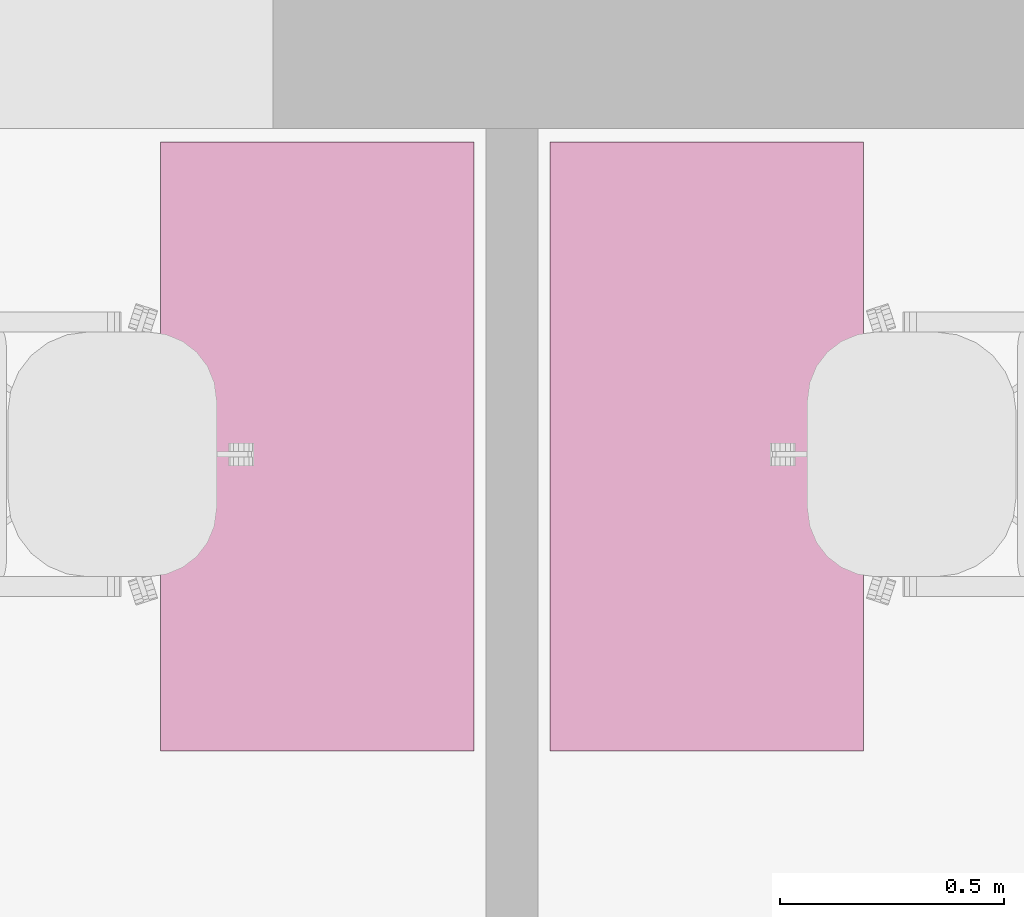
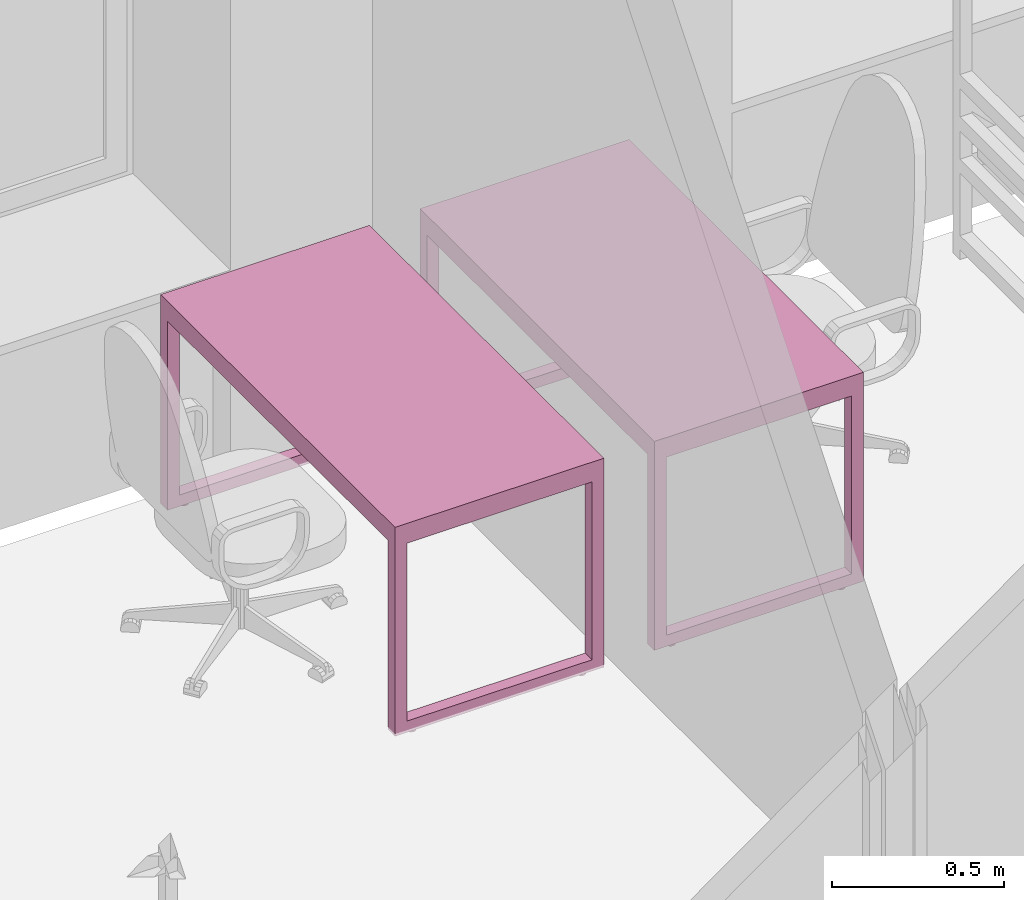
# One storey, part 38 of 48: 2 furnishings.
"""IFC2X3 building model written with IfcOpenShell, lengths in millimetres."""

from ifc_helpers import new_model, entity, si_unit, converted_unit, derived_unit, direction, frame, origin, place, context, subcontext, project, spatial, faceted_brep, source, transform, mapped, material, material_list, type_object, type_shapes, element, save


model = new_model("IFC2X3")

# Units and contexts
model_context = context("Model", 3, precision=0.01, world=origin(), true_north=direction((6.12303176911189e-17, 1.0)))
body_context = subcontext(model_context, "Body", "Model", "MODEL_VIEW")
ifc_project = project(units=[si_unit("LENGTHUNIT", "METRE", prefix="MILLI"), si_unit("AREAUNIT", "SQUARE_METRE"), si_unit("VOLUMEUNIT", "CUBIC_METRE"), converted_unit("PLANEANGLEUNIT", "DEGREE", entity("IfcRatioMeasure", 0.0174532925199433), si_unit("PLANEANGLEUNIT", "RADIAN"), dimensions=[0, 0, 0, 0, 0, 0, 0]), si_unit("MASSUNIT", "GRAM", prefix="KILO"), derived_unit("MASSDENSITYUNIT", [(si_unit("MASSUNIT", "GRAM", prefix="KILO"), 1), (si_unit("LENGTHUNIT", "METRE"), -3)]), si_unit("TIMEUNIT", "SECOND"), si_unit("FREQUENCYUNIT", "HERTZ"), si_unit("THERMODYNAMICTEMPERATUREUNIT", "DEGREE_CELSIUS"), derived_unit("THERMALTRANSMITTANCEUNIT", [(si_unit("MASSUNIT", "GRAM", prefix="KILO"), 1), (si_unit("THERMODYNAMICTEMPERATUREUNIT", "KELVIN"), -1), (si_unit("TIMEUNIT", "SECOND"), -3)]), derived_unit("VOLUMETRICFLOWRATEUNIT", [(si_unit("LENGTHUNIT", "METRE"), 3), (si_unit("TIMEUNIT", "SECOND"), -1)]), si_unit("ELECTRICCURRENTUNIT", "AMPERE"), si_unit("ELECTRICVOLTAGEUNIT", "VOLT"), si_unit("POWERUNIT", "WATT"), si_unit("FORCEUNIT", "NEWTON", prefix="KILO"), si_unit("ILLUMINANCEUNIT", "LUX"), si_unit("LUMINOUSFLUXUNIT", "LUMEN"), si_unit("LUMINOUSINTENSITYUNIT", "CANDELA"), derived_unit("USERDEFINED", [(si_unit("MASSUNIT", "GRAM", prefix="KILO"), -1), (si_unit("LENGTHUNIT", "METRE"), -2), (si_unit("TIMEUNIT", "SECOND"), 3), (si_unit("LUMINOUSFLUXUNIT", "LUMEN"), 1)]), derived_unit("LINEARVELOCITYUNIT", [(si_unit("LENGTHUNIT", "METRE"), 1), (si_unit("TIMEUNIT", "SECOND"), -1)]), si_unit("PRESSUREUNIT", "PASCAL"), derived_unit("USERDEFINED", [(si_unit("LENGTHUNIT", "METRE"), -2), (si_unit("MASSUNIT", "GRAM", prefix="KILO"), 1), (si_unit("TIMEUNIT", "SECOND"), -2)]), derived_unit("LINEARFORCEUNIT", [(si_unit("MASSUNIT", "GRAM", prefix="KILO"), 1), (si_unit("LENGTHUNIT", "METRE"), 1), (si_unit("TIMEUNIT", "SECOND"), -2), (si_unit("LENGTHUNIT", "METRE"), -1)]), derived_unit("PLANARFORCEUNIT", [(si_unit("MASSUNIT", "GRAM", prefix="KILO"), 1), (si_unit("LENGTHUNIT", "METRE"), 1), (si_unit("TIMEUNIT", "SECOND"), -2), (si_unit("LENGTHUNIT", "METRE"), -2)])], contexts=[model_context])

# Site, building, storey, space
site_placement = place(None, origin())
site = spatial("IfcSite", under=ifc_project, at=site_placement, Name="Default", CompositionType="ELEMENT")
building_placement = place(site_placement, origin())
building = spatial("IfcBuilding", under=site, at=building_placement, Name="SMA ARH", CompositionType="ELEMENT")
storey_placement = place(building_placement, frame((0.0, 0.0, 6600.0)))
storey = spatial("IfcBuildingStorey", under=building, at=storey_placement, Name="3 Korrus", CompositionType="ELEMENT", Elevation=6599.99999999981)
space_1_placement = place(storey_placement, origin())
space_1 = spatial("IfcSpace", under=storey, at=space_1_placement, Name="3-24", CompositionType="ELEMENT", InteriorOrExteriorSpace="INTERNAL")

# Furnishing
ifc_material = material(Name="<Unnamed>")
ifc_material_list_1 = material_list([ifc_material, ifc_material])
furniture_type_1 = type_object("IfcFurnitureType", Name="kirjutuslaud 1360x700mm:kirjutuslaud 1360x700mm", material=ifc_material_list_1)
shared_shape_1 = source(origin(), body_context, "Body", "Brep", [
    faceted_brep([(680.0, -350.0, 720.0), (680.0, 350.0, 720.0), (680.0, 350.0, 750.0), (680.0, -350.0, 750.0), (-680.0, -350.0, 720.0), (-680.0, -350.0, 750.0), (-680.0, 350.0, 750.0), (-680.0, 350.0, 720.0)], [[[0, 1, 2, 3]], [[4, 5, 6, 7]], [[1, 0, 4, 7]], [[2, 1, 7, 6]], [[3, 2, 6, 5]], [[0, 3, 5, 4]]]),
    faceted_brep([(-640.0, -310.0, 680.0), (-640.0, 310.0, 680.0), (-640.0, 310.0, 720.0), (-640.0, -310.0, 720.0), (-680.0, -350.0, 720.0), (-680.0, 350.0, 720.0), (-680.0, 350.0, 10.0), (-680.0, -350.0, 10.0), (-680.0, 310.0, 680.0), (-680.0, -310.0, 680.0), (-680.0, -310.0, 50.0), (-680.0, 310.0, 50.0), (-640.0, -350.0, 10.0), (-640.0, -350.0, 680.0), (640.0, -350.0, 680.0), (640.0, -350.0, 10.0), (680.0, -350.0, 10.0), (680.0, -350.0, 720.0), (-640.0, 350.0, 10.0), (680.0, 350.0, 720.0), (680.0, 350.0, 10.0), (640.0, 350.0, 10.0), (640.0, 350.0, 680.0), (-640.0, 350.0, 680.0), (640.0, 310.0, 720.0), (640.0, -310.0, 720.0), (-640.0, 310.0, 50.0), (-640.0, -310.0, 50.0), (640.0, -310.0, 680.0), (640.0, 310.0, 680.0), (680.0, 310.0, 680.0), (680.0, 310.0, 50.0), (680.0, -310.0, 50.0), (680.0, -310.0, 680.0), (640.0, -310.0, 50.0), (640.0, 310.0, 50.0)], [[[0, 1, 2, 3]], [[4, 5, 6, 7], [8, 9, 10, 11]], [[4, 7, 12, 13, 14, 15, 16, 17]], [[18, 12, 7, 6]], [[6, 5, 19, 20, 21, 22, 23, 18]], [[19, 5, 4, 17], [2, 24, 25, 3]], [[26, 1, 8, 11]], [[27, 26, 11, 10]], [[0, 27, 10, 9]], [[1, 0, 9, 8]], [[14, 13, 0, 28]], [[24, 2, 1, 29]], [[3, 25, 28, 0]], [[17, 16, 20, 19], [30, 31, 32, 33]], [[21, 15, 14, 28, 34, 35, 29, 22]], [[20, 16, 15, 21]], [[31, 30, 29, 35]], [[32, 31, 35, 34]], [[33, 32, 34, 28]], [[30, 33, 28, 29]], [[29, 28, 25, 24]], [[29, 1, 23, 22]], [[12, 18, 23, 1, 26, 27, 0, 13]]]),
    faceted_brep([(-663.729456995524, -270.466136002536, 0.0), (-659.847171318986, -269.955023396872, 0.0), (-655.964885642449, -270.466136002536, 0.0), (-652.347171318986, -271.964642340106, 0.0), (-649.240569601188, -274.348421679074, 0.0), (-646.85679026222, -277.455023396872, 0.0), (-645.35828392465, -281.072737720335, 0.0), (-644.847171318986, -284.955023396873, 0.0), (-645.35828392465, -288.83730907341, 0.0), (-646.85679026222, -292.455023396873, 0.0), (-649.240569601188, -295.561625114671, 0.0), (-652.347171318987, -297.945404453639, 0.0), (-655.964885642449, -299.443910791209, 0.0), (-659.847171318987, -299.955023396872, 0.0), (-663.729456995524, -299.443910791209, 0.0), (-667.347171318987, -297.945404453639, 0.0), (-670.453773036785, -295.561625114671, 0.0), (-672.837552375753, -292.455023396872, 0.0), (-674.336058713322, -288.83730907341, 0.0), (-674.847171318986, -284.955023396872, 0.0), (-674.336058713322, -281.072737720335, 0.0), (-672.837552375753, -277.455023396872, 0.0), (-670.453773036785, -274.348421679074, 0.0), (-667.347171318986, -271.964642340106, 0.0), (-655.964885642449, -299.443910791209, 10.0), (-652.347171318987, -297.945404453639, 10.0), (-649.240569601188, -295.561625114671, 10.0), (-646.85679026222, -292.455023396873, 10.0), (-645.35828392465, -288.83730907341, 10.0), (-644.847171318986, -284.955023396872, 10.0), (-645.35828392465, -281.072737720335, 10.0), (-646.85679026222, -277.455023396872, 10.0), (-649.240569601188, -274.348421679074, 10.0), (-652.347171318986, -271.964642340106, 10.0), (-655.964885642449, -270.466136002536, 10.0), (-659.847171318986, -269.955023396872, 10.0), (-663.729456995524, -270.466136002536, 10.0), (-667.347171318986, -271.964642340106, 10.0), (-670.453773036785, -274.348421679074, 10.0), (-672.837552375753, -277.455023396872, 10.0), (-674.336058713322, -281.072737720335, 10.0), (-674.847171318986, -284.955023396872, 10.0), (-674.336058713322, -288.83730907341, 10.0), (-672.837552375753, -292.455023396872, 10.0), (-670.453773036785, -295.561625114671, 10.0), (-667.347171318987, -297.945404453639, 10.0), (-663.729456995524, -299.443910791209, 10.0), (-659.847171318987, -299.955023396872, 10.0)], [[[0, 1, 2, 3, 4, 5, 6, 7, 8, 9, 10, 11, 12, 13, 14, 15, 16, 17, 18, 19, 20, 21, 22, 23]], [[24, 25, 26, 27, 28, 29, 30, 31, 32, 33, 34, 35, 36, 37, 38, 39, 40, 41, 42, 43, 44, 45, 46, 47]], [[18, 42, 41, 19]], [[17, 43, 42, 18]], [[45, 44, 16, 15]], [[17, 16, 44, 43]], [[46, 45, 15, 14]], [[47, 46, 14, 13]], [[12, 24, 47, 13]], [[11, 25, 24, 12]], [[27, 26, 10, 9]], [[11, 10, 26, 25]], [[28, 27, 9, 8]], [[29, 28, 8, 7]], [[6, 30, 29, 7]], [[5, 31, 30, 6]], [[33, 32, 4, 3]], [[5, 4, 32, 31]], [[34, 33, 3, 2]], [[35, 34, 2, 1]], [[0, 36, 35, 1]], [[23, 37, 36, 0]], [[39, 38, 22, 21]], [[23, 22, 38, 37]], [[40, 39, 21, 20]], [[41, 40, 20, 19]]]),
    faceted_brep([(-655.964885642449, 270.466136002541, 10.0), (-652.347171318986, 271.964642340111, 10.0), (-649.240569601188, 274.348421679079, 10.0), (-646.85679026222, 277.455023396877, 10.0), (-645.35828392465, 281.07273772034, 10.0), (-644.847171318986, 284.955023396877, 10.0), (-645.35828392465, 288.837309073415, 10.0), (-646.85679026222, 292.455023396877, 10.0), (-649.240569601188, 295.561625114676, 10.0), (-652.347171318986, 297.945404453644, 10.0), (-655.964885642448, 299.443910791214, 10.0), (-659.847171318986, 299.955023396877, 10.0), (-663.729456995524, 299.443910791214, 10.0), (-667.347171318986, 297.945404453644, 10.0), (-670.453773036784, 295.561625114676, 10.0), (-672.837552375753, 292.455023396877, 10.0), (-674.336058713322, 288.837309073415, 10.0), (-674.847171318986, 284.955023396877, 10.0), (-674.336058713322, 281.07273772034, 10.0), (-672.837552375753, 277.455023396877, 10.0), (-670.453773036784, 274.348421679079, 10.0), (-667.347171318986, 271.964642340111, 10.0), (-663.729456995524, 270.466136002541, 10.0), (-659.847171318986, 269.955023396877, 10.0), (-655.964885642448, 299.443910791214, 0.0), (-652.347171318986, 297.945404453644, 0.0), (-649.240569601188, 295.561625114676, 0.0), (-646.85679026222, 292.455023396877, 0.0), (-645.35828392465, 288.837309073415, 0.0), (-644.847171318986, 284.955023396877, 0.0), (-645.35828392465, 281.07273772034, 0.0), (-646.85679026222, 277.455023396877, 0.0), (-649.240569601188, 274.348421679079, 0.0), (-652.347171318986, 271.964642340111, 0.0), (-655.964885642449, 270.466136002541, 0.0), (-659.847171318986, 269.955023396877, 0.0), (-663.729456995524, 270.466136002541, 0.0), (-667.347171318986, 271.964642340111, 0.0), (-670.453773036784, 274.348421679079, 0.0), (-672.837552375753, 277.455023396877, 0.0), (-674.336058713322, 281.07273772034, 0.0), (-674.847171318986, 284.955023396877, 0.0), (-674.336058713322, 288.837309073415, 0.0), (-672.837552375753, 292.455023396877, 0.0), (-670.453773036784, 295.561625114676, 0.0), (-667.347171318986, 297.945404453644, 0.0), (-663.729456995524, 299.443910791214, 0.0), (-659.847171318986, 299.955023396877, 0.0)], [[[0, 1, 2, 3, 4, 5, 6, 7, 8, 9, 10, 11, 12, 13, 14, 15, 16, 17, 18, 19, 20, 21, 22, 23]], [[24, 25, 26, 27, 28, 29, 30, 31, 32, 33, 34, 35, 36, 37, 38, 39, 40, 41, 42, 43, 44, 45, 46, 47]], [[40, 18, 17, 41]], [[39, 19, 18, 40]], [[21, 20, 38, 37]], [[39, 38, 20, 19]], [[22, 21, 37, 36]], [[23, 22, 36, 35]], [[34, 0, 23, 35]], [[33, 1, 0, 34]], [[3, 2, 32, 31]], [[33, 32, 2, 1]], [[4, 3, 31, 30]], [[5, 4, 30, 29]], [[28, 6, 5, 29]], [[27, 7, 6, 28]], [[9, 8, 26, 25]], [[27, 26, 8, 7]], [[10, 9, 25, 24]], [[11, 10, 24, 47]], [[46, 12, 11, 47]], [[45, 13, 12, 46]], [[15, 14, 44, 43]], [[45, 44, 14, 13]], [[16, 15, 43, 42]], [[17, 16, 42, 41]]]),
    faceted_brep([(656.270543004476, -270.466136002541, 0.0), (660.152828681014, -269.955023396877, 0.0), (664.035114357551, -270.466136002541, 0.0), (667.652828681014, -271.96464234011, 0.0), (670.759430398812, -274.348421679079, 0.0), (673.14320973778, -277.455023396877, 0.0), (674.64171607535, -281.072737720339, 0.0), (675.152828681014, -284.955023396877, 0.0), (674.64171607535, -288.837309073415, 0.0), (673.14320973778, -292.455023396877, 0.0), (670.759430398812, -295.561625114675, 0.0), (667.652828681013, -297.945404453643, 0.0), (664.035114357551, -299.443910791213, 0.0), (660.152828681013, -299.955023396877, 0.0), (656.270543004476, -299.443910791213, 0.0), (652.652828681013, -297.945404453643, 0.0), (649.546226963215, -295.561625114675, 0.0), (647.162447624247, -292.455023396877, 0.0), (645.663941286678, -288.837309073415, 0.0), (645.152828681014, -284.955023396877, 0.0), (645.663941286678, -281.072737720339, 0.0), (647.162447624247, -277.455023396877, 0.0), (649.546226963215, -274.348421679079, 0.0), (652.652828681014, -271.96464234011, 0.0), (664.035114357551, -299.443910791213, 10.0), (667.652828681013, -297.945404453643, 10.0), (670.759430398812, -295.561625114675, 10.0), (673.14320973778, -292.455023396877, 10.0), (674.64171607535, -288.837309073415, 10.0), (675.152828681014, -284.955023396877, 10.0), (674.64171607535, -281.072737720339, 10.0), (673.14320973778, -277.455023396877, 10.0), (670.759430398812, -274.348421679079, 10.0), (667.652828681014, -271.96464234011, 10.0), (664.035114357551, -270.466136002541, 10.0), (660.152828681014, -269.955023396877, 10.0), (656.270543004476, -270.466136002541, 10.0), (652.652828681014, -271.96464234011, 10.0), (649.546226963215, -274.348421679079, 10.0), (647.162447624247, -277.455023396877, 10.0), (645.663941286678, -281.072737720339, 10.0), (645.152828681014, -284.955023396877, 10.0), (645.663941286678, -288.837309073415, 10.0), (647.162447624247, -292.455023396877, 10.0), (649.546226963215, -295.561625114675, 10.0), (652.652828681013, -297.945404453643, 10.0), (656.270543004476, -299.443910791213, 10.0), (660.152828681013, -299.955023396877, 10.0)], [[[0, 1, 2, 3, 4, 5, 6, 7, 8, 9, 10, 11, 12, 13, 14, 15, 16, 17, 18, 19, 20, 21, 22, 23]], [[24, 25, 26, 27, 28, 29, 30, 31, 32, 33, 34, 35, 36, 37, 38, 39, 40, 41, 42, 43, 44, 45, 46, 47]], [[18, 42, 41, 19]], [[17, 43, 42, 18]], [[45, 44, 16, 15]], [[17, 16, 44, 43]], [[46, 45, 15, 14]], [[47, 46, 14, 13]], [[12, 24, 47, 13]], [[11, 25, 24, 12]], [[27, 26, 10, 9]], [[11, 10, 26, 25]], [[28, 27, 9, 8]], [[29, 28, 8, 7]], [[6, 30, 29, 7]], [[5, 31, 30, 6]], [[33, 32, 4, 3]], [[5, 4, 32, 31]], [[34, 33, 3, 2]], [[35, 34, 2, 1]], [[0, 36, 35, 1]], [[23, 37, 36, 0]], [[39, 38, 22, 21]], [[23, 22, 38, 37]], [[40, 39, 21, 20]], [[41, 40, 20, 19]]]),
    faceted_brep([(664.035114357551, 270.466136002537, 10.0), (667.652828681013, 271.964642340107, 10.0), (670.759430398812, 274.348421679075, 10.0), (673.14320973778, 277.455023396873, 10.0), (674.64171607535, 281.072737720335, 10.0), (675.152828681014, 284.955023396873, 10.0), (674.64171607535, 288.837309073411, 10.0), (673.14320973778, 292.455023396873, 10.0), (670.759430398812, 295.561625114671, 10.0), (667.652828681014, 297.94540445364, 10.0), (664.035114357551, 299.443910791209, 10.0), (660.152828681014, 299.955023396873, 10.0), (656.270543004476, 299.443910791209, 10.0), (652.652828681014, 297.94540445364, 10.0), (649.546226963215, 295.561625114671, 10.0), (647.162447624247, 292.455023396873, 10.0), (645.663941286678, 288.837309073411, 10.0), (645.152828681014, 284.955023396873, 10.0), (645.663941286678, 281.072737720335, 10.0), (647.162447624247, 277.455023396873, 10.0), (649.546226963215, 274.348421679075, 10.0), (652.652828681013, 271.964642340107, 10.0), (656.270543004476, 270.466136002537, 10.0), (660.152828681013, 269.955023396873, 10.0), (664.035114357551, 299.443910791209, 0.0), (667.652828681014, 297.94540445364, 0.0), (670.759430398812, 295.561625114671, 0.0), (673.14320973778, 292.455023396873, 0.0), (674.64171607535, 288.837309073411, 0.0), (675.152828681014, 284.955023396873, 0.0), (674.64171607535, 281.072737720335, 0.0), (673.14320973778, 277.455023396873, 0.0), (670.759430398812, 274.348421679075, 0.0), (667.652828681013, 271.964642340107, 0.0), (664.035114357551, 270.466136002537, 0.0), (660.152828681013, 269.955023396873, 0.0), (656.270543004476, 270.466136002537, 0.0), (652.652828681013, 271.964642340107, 0.0), (649.546226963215, 274.348421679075, 0.0), (647.162447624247, 277.455023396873, 0.0), (645.663941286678, 281.072737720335, 0.0), (645.152828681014, 284.955023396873, 0.0), (645.663941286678, 288.837309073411, 0.0), (647.162447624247, 292.455023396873, 0.0), (649.546226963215, 295.561625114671, 0.0), (652.652828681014, 297.94540445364, 0.0), (656.270543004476, 299.443910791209, 0.0), (660.152828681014, 299.955023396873, 0.0)], [[[0, 1, 2, 3, 4, 5, 6, 7, 8, 9, 10, 11, 12, 13, 14, 15, 16, 17, 18, 19, 20, 21, 22, 23]], [[24, 25, 26, 27, 28, 29, 30, 31, 32, 33, 34, 35, 36, 37, 38, 39, 40, 41, 42, 43, 44, 45, 46, 47]], [[40, 18, 17, 41]], [[39, 19, 18, 40]], [[21, 20, 38, 37]], [[39, 38, 20, 19]], [[22, 21, 37, 36]], [[23, 22, 36, 35]], [[34, 0, 23, 35]], [[33, 1, 0, 34]], [[3, 2, 32, 31]], [[33, 32, 2, 1]], [[4, 3, 31, 30]], [[5, 4, 30, 29]], [[28, 6, 5, 29]], [[27, 7, 6, 28]], [[9, 8, 26, 25]], [[27, 26, 8, 7]], [[10, 9, 25, 24]], [[11, 10, 24, 47]], [[46, 12, 11, 47]], [[45, 13, 12, 46]], [[15, 14, 44, 43]], [[45, 44, 14, 13]], [[16, 15, 43, 42]], [[17, 16, 42, 41]]]),
])
type_shapes(furniture_type_1, [shared_shape_1])
furnishing_1_placement = place(space_1_placement, frame((19678.0, 11790.0, 0.0), z_axis=(0.0, 0.0, 1.0), x_axis=(0.0, 1.0, 0.0)))
element("IfcFurnishingElement", 1, at=furnishing_1_placement, inside=space_1, type_object=furniture_type_1, Name="kirjutuslaud 1360x700mm:kirjutuslaud 1360x700mm", ObjectType="kirjutuslaud 1360x700mm:kirjutuslaud 1360x700mm", context=body_context, shape_type="MappedRepresentation", body=[
    mapped(shared_shape_1, transform((0.0, 0.0, 0.0), scale=1.0)),
])

# Space
space_2_placement = place(storey_placement, origin())
space_2 = spatial("IfcSpace", under=storey, at=space_2_placement, Name="3-23", CompositionType="ELEMENT", InteriorOrExteriorSpace="INTERNAL")

# Furnishing
ifc_material_list_2 = material_list([ifc_material, ifc_material])
furniture_type_2 = type_object("IfcFurnitureType", Name="kirjutuslaud 1360x700mm:kirjutuslaud 1360x700mm", material=ifc_material_list_2)
shared_shape_2 = source(origin(), body_context, "Body", "Brep", [
    faceted_brep([(680.0, 350.0, 720.0), (680.0, 350.0, 750.0), (680.0, -350.0, 750.0), (680.0, -350.0, 720.0), (-680.0, 350.0, 720.0), (-680.0, -350.0, 720.0), (-680.0, -350.0, 750.0), (-680.0, 350.0, 750.0)], [[[0, 1, 2, 3]], [[4, 5, 6, 7]], [[3, 5, 4, 0]], [[2, 6, 5, 3]], [[1, 7, 6, 2]], [[0, 4, 7, 1]]]),
    faceted_brep([(-640.0, 310.0, 680.0), (-640.0, 310.0, 720.0), (-640.0, -310.0, 720.0), (-640.0, -310.0, 680.0), (-680.0, 350.0, 720.0), (-680.0, 350.0, 10.0), (-680.0, -350.0, 10.0), (-680.0, -350.0, 720.0), (-680.0, -310.0, 680.0), (-680.0, -310.0, 50.0), (-680.0, 310.0, 50.0), (-680.0, 310.0, 680.0), (680.0, 350.0, 720.0), (680.0, 350.0, 10.0), (640.0, 350.0, 10.0), (640.0, 350.0, 680.0), (-640.0, 350.0, 680.0), (-640.0, 350.0, 10.0), (-640.0, -350.0, 10.0), (-640.0, -350.0, 680.0), (640.0, -350.0, 680.0), (640.0, -350.0, 10.0), (680.0, -350.0, 10.0), (680.0, -350.0, 720.0), (640.0, 310.0, 720.0), (640.0, -310.0, 720.0), (-640.0, -310.0, 50.0), (-640.0, 310.0, 50.0), (640.0, -310.0, 680.0), (640.0, 310.0, 680.0), (680.0, -310.0, 680.0), (680.0, 310.0, 680.0), (680.0, 310.0, 50.0), (680.0, -310.0, 50.0), (640.0, -310.0, 50.0), (640.0, 310.0, 50.0)], [[[0, 1, 2, 3]], [[4, 5, 6, 7], [8, 9, 10, 11]], [[4, 12, 13, 14, 15, 16, 17, 5]], [[18, 6, 5, 17]], [[6, 18, 19, 20, 21, 22, 23, 7]], [[2, 1, 24, 25], [23, 12, 4, 7]], [[26, 9, 8, 3]], [[27, 10, 9, 26]], [[0, 11, 10, 27]], [[3, 8, 11, 0]], [[28, 20, 19, 3]], [[25, 28, 3, 2]], [[1, 0, 29, 24]], [[12, 23, 22, 13], [30, 31, 32, 33]], [[21, 20, 28, 34, 35, 29, 15, 14]], [[22, 21, 14, 13]], [[33, 34, 28, 30]], [[32, 35, 34, 33]], [[31, 29, 35, 32]], [[30, 28, 29, 31]], [[28, 25, 24, 29]], [[15, 29, 0, 16]], [[17, 16, 0, 27, 26, 3, 19, 18]]], outer=[[True], [True, False], [True], [True], [True], [False, True], [True], [True], [True], [True], [True], [True], [True], [True, False], [True], [True], [True], [True], [True], [True], [True], [True], [True]]),
    faceted_brep([(-655.964885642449, 270.466136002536, 0.0), (-659.847171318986, 269.955023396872, 0.0), (-663.729456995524, 270.466136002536, 0.0), (-667.347171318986, 271.964642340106, 0.0), (-670.453773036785, 274.348421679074, 0.0), (-672.837552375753, 277.455023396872, 0.0), (-674.336058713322, 281.072737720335, 0.0), (-674.847171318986, 284.955023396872, 0.0), (-674.336058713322, 288.83730907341, 0.0), (-672.837552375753, 292.455023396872, 0.0), (-670.453773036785, 295.561625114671, 0.0), (-667.347171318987, 297.945404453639, 0.0), (-663.729456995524, 299.443910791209, 0.0), (-659.847171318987, 299.955023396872, 0.0), (-655.964885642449, 299.443910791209, 0.0), (-652.347171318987, 297.945404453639, 0.0), (-649.240569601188, 295.561625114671, 0.0), (-646.85679026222, 292.455023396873, 0.0), (-645.35828392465, 288.83730907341, 0.0), (-644.847171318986, 284.955023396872, 0.0), (-645.35828392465, 281.072737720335, 0.0), (-646.85679026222, 277.455023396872, 0.0), (-649.240569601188, 274.348421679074, 0.0), (-652.347171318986, 271.964642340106, 0.0), (-649.240569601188, 295.561625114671, 10.0), (-652.347171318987, 297.945404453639, 10.0), (-655.964885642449, 299.443910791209, 10.0), (-659.847171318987, 299.955023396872, 10.0), (-663.729456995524, 299.443910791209, 10.0), (-667.347171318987, 297.945404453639, 10.0), (-670.453773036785, 295.561625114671, 10.0), (-672.837552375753, 292.455023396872, 10.0), (-674.336058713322, 288.83730907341, 10.0), (-674.847171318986, 284.955023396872, 10.0), (-674.336058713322, 281.072737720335, 10.0), (-672.837552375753, 277.455023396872, 10.0), (-670.453773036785, 274.348421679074, 10.0), (-667.347171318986, 271.964642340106, 10.0), (-663.729456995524, 270.466136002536, 10.0), (-659.847171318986, 269.955023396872, 10.0), (-655.964885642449, 270.466136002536, 10.0), (-652.347171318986, 271.964642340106, 10.0), (-649.240569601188, 274.348421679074, 10.0), (-646.85679026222, 277.455023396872, 10.0), (-645.35828392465, 281.072737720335, 10.0), (-644.847171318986, 284.955023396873, 10.0), (-645.35828392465, 288.83730907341, 10.0), (-646.85679026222, 292.455023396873, 10.0)], [[[0, 1, 2, 3, 4, 5, 6, 7, 8, 9, 10, 11, 12, 13, 14, 15, 16, 17, 18, 19, 20, 21, 22, 23]], [[24, 25, 26, 27, 28, 29, 30, 31, 32, 33, 34, 35, 36, 37, 38, 39, 40, 41, 42, 43, 44, 45, 46, 47]], [[7, 33, 32, 8]], [[8, 32, 31, 9]], [[11, 10, 30, 29]], [[30, 10, 9, 31]], [[12, 11, 29, 28]], [[12, 28, 27, 13]], [[13, 27, 26, 14]], [[14, 26, 25, 15]], [[17, 16, 24, 47]], [[24, 16, 15, 25]], [[18, 17, 47, 46]], [[18, 46, 45, 19]], [[19, 45, 44, 20]], [[20, 44, 43, 21]], [[23, 22, 42, 41]], [[42, 22, 21, 43]], [[0, 23, 41, 40]], [[0, 40, 39, 1]], [[1, 39, 38, 2]], [[2, 38, 37, 3]], [[5, 4, 36, 35]], [[36, 4, 3, 37]], [[6, 5, 35, 34]], [[6, 34, 33, 7]]]),
    faceted_brep([(-649.240569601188, -274.348421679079, 10.0), (-652.347171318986, -271.964642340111, 10.0), (-655.964885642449, -270.466136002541, 10.0), (-659.847171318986, -269.955023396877, 10.0), (-663.729456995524, -270.466136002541, 10.0), (-667.347171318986, -271.964642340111, 10.0), (-670.453773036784, -274.348421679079, 10.0), (-672.837552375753, -277.455023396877, 10.0), (-674.336058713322, -281.07273772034, 10.0), (-674.847171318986, -284.955023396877, 10.0), (-674.336058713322, -288.837309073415, 10.0), (-672.837552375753, -292.455023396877, 10.0), (-670.453773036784, -295.561625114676, 10.0), (-667.347171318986, -297.945404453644, 10.0), (-663.729456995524, -299.443910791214, 10.0), (-659.847171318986, -299.955023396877, 10.0), (-655.964885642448, -299.443910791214, 10.0), (-652.347171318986, -297.945404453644, 10.0), (-649.240569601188, -295.561625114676, 10.0), (-646.85679026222, -292.455023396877, 10.0), (-645.35828392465, -288.837309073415, 10.0), (-644.847171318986, -284.955023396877, 10.0), (-645.35828392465, -281.07273772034, 10.0), (-646.85679026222, -277.455023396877, 10.0), (-659.847171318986, -299.955023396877, 0.0), (-663.729456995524, -299.443910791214, 0.0), (-667.347171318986, -297.945404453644, 0.0), (-670.453773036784, -295.561625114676, 0.0), (-672.837552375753, -292.455023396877, 0.0), (-674.336058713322, -288.837309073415, 0.0), (-674.847171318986, -284.955023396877, 0.0), (-674.336058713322, -281.07273772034, 0.0), (-672.837552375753, -277.455023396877, 0.0), (-670.453773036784, -274.348421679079, 0.0), (-667.347171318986, -271.964642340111, 0.0), (-663.729456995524, -270.466136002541, 0.0), (-659.847171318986, -269.955023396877, 0.0), (-655.964885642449, -270.466136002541, 0.0), (-652.347171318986, -271.964642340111, 0.0), (-649.240569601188, -274.348421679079, 0.0), (-646.85679026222, -277.455023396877, 0.0), (-645.35828392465, -281.07273772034, 0.0), (-644.847171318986, -284.955023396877, 0.0), (-645.35828392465, -288.837309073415, 0.0), (-646.85679026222, -292.455023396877, 0.0), (-649.240569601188, -295.561625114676, 0.0), (-652.347171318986, -297.945404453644, 0.0), (-655.964885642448, -299.443910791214, 0.0)], [[[0, 1, 2, 3, 4, 5, 6, 7, 8, 9, 10, 11, 12, 13, 14, 15, 16, 17, 18, 19, 20, 21, 22, 23]], [[24, 25, 26, 27, 28, 29, 30, 31, 32, 33, 34, 35, 36, 37, 38, 39, 40, 41, 42, 43, 44, 45, 46, 47]], [[30, 9, 8, 31]], [[31, 8, 7, 32]], [[34, 33, 6, 5]], [[6, 33, 32, 7]], [[35, 34, 5, 4]], [[35, 4, 3, 36]], [[36, 3, 2, 37]], [[37, 2, 1, 38]], [[40, 39, 0, 23]], [[0, 39, 38, 1]], [[41, 40, 23, 22]], [[41, 22, 21, 42]], [[42, 21, 20, 43]], [[43, 20, 19, 44]], [[46, 45, 18, 17]], [[18, 45, 44, 19]], [[47, 46, 17, 16]], [[47, 16, 15, 24]], [[24, 15, 14, 25]], [[25, 14, 13, 26]], [[28, 27, 12, 11]], [[12, 27, 26, 13]], [[29, 28, 11, 10]], [[29, 10, 9, 30]]]),
    faceted_brep([(664.035114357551, 270.466136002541, 0.0), (660.152828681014, 269.955023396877, 0.0), (656.270543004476, 270.466136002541, 0.0), (652.652828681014, 271.96464234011, 0.0), (649.546226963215, 274.348421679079, 0.0), (647.162447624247, 277.455023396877, 0.0), (645.663941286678, 281.072737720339, 0.0), (645.152828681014, 284.955023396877, 0.0), (645.663941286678, 288.837309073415, 0.0), (647.162447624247, 292.455023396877, 0.0), (649.546226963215, 295.561625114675, 0.0), (652.652828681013, 297.945404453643, 0.0), (656.270543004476, 299.443910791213, 0.0), (660.152828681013, 299.955023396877, 0.0), (664.035114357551, 299.443910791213, 0.0), (667.652828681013, 297.945404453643, 0.0), (670.759430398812, 295.561625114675, 0.0), (673.14320973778, 292.455023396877, 0.0), (674.64171607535, 288.837309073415, 0.0), (675.152828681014, 284.955023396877, 0.0), (674.64171607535, 281.072737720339, 0.0), (673.14320973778, 277.455023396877, 0.0), (670.759430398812, 274.348421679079, 0.0), (667.652828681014, 271.96464234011, 0.0), (670.759430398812, 295.561625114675, 10.0), (667.652828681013, 297.945404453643, 10.0), (664.035114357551, 299.443910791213, 10.0), (660.152828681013, 299.955023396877, 10.0), (656.270543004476, 299.443910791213, 10.0), (652.652828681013, 297.945404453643, 10.0), (649.546226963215, 295.561625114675, 10.0), (647.162447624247, 292.455023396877, 10.0), (645.663941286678, 288.837309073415, 10.0), (645.152828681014, 284.955023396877, 10.0), (645.663941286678, 281.072737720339, 10.0), (647.162447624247, 277.455023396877, 10.0), (649.546226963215, 274.348421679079, 10.0), (652.652828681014, 271.96464234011, 10.0), (656.270543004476, 270.466136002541, 10.0), (660.152828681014, 269.955023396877, 10.0), (664.035114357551, 270.466136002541, 10.0), (667.652828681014, 271.96464234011, 10.0), (670.759430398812, 274.348421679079, 10.0), (673.14320973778, 277.455023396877, 10.0), (674.64171607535, 281.072737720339, 10.0), (675.152828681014, 284.955023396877, 10.0), (674.64171607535, 288.837309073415, 10.0), (673.14320973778, 292.455023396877, 10.0)], [[[0, 1, 2, 3, 4, 5, 6, 7, 8, 9, 10, 11, 12, 13, 14, 15, 16, 17, 18, 19, 20, 21, 22, 23]], [[24, 25, 26, 27, 28, 29, 30, 31, 32, 33, 34, 35, 36, 37, 38, 39, 40, 41, 42, 43, 44, 45, 46, 47]], [[7, 33, 32, 8]], [[8, 32, 31, 9]], [[11, 10, 30, 29]], [[30, 10, 9, 31]], [[12, 11, 29, 28]], [[12, 28, 27, 13]], [[13, 27, 26, 14]], [[14, 26, 25, 15]], [[17, 16, 24, 47]], [[24, 16, 15, 25]], [[18, 17, 47, 46]], [[18, 46, 45, 19]], [[19, 45, 44, 20]], [[20, 44, 43, 21]], [[23, 22, 42, 41]], [[42, 22, 21, 43]], [[0, 23, 41, 40]], [[0, 40, 39, 1]], [[1, 39, 38, 2]], [[2, 38, 37, 3]], [[5, 4, 36, 35]], [[36, 4, 3, 37]], [[6, 5, 35, 34]], [[6, 34, 33, 7]]]),
    faceted_brep([(670.759430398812, -274.348421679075, 10.0), (667.652828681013, -271.964642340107, 10.0), (664.035114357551, -270.466136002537, 10.0), (660.152828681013, -269.955023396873, 10.0), (656.270543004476, -270.466136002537, 10.0), (652.652828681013, -271.964642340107, 10.0), (649.546226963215, -274.348421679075, 10.0), (647.162447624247, -277.455023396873, 10.0), (645.663941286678, -281.072737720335, 10.0), (645.152828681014, -284.955023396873, 10.0), (645.663941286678, -288.837309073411, 10.0), (647.162447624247, -292.455023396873, 10.0), (649.546226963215, -295.561625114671, 10.0), (652.652828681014, -297.94540445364, 10.0), (656.270543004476, -299.443910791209, 10.0), (660.152828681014, -299.955023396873, 10.0), (664.035114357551, -299.443910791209, 10.0), (667.652828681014, -297.94540445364, 10.0), (670.759430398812, -295.561625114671, 10.0), (673.14320973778, -292.455023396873, 10.0), (674.64171607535, -288.837309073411, 10.0), (675.152828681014, -284.955023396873, 10.0), (674.64171607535, -281.072737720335, 10.0), (673.14320973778, -277.455023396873, 10.0), (660.152828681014, -299.955023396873, 0.0), (656.270543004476, -299.443910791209, 0.0), (652.652828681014, -297.94540445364, 0.0), (649.546226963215, -295.561625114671, 0.0), (647.162447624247, -292.455023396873, 0.0), (645.663941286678, -288.837309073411, 0.0), (645.152828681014, -284.955023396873, 0.0), (645.663941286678, -281.072737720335, 0.0), (647.162447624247, -277.455023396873, 0.0), (649.546226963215, -274.348421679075, 0.0), (652.652828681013, -271.964642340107, 0.0), (656.270543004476, -270.466136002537, 0.0), (660.152828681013, -269.955023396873, 0.0), (664.035114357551, -270.466136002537, 0.0), (667.652828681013, -271.964642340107, 0.0), (670.759430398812, -274.348421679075, 0.0), (673.14320973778, -277.455023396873, 0.0), (674.64171607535, -281.072737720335, 0.0), (675.152828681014, -284.955023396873, 0.0), (674.64171607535, -288.837309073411, 0.0), (673.14320973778, -292.455023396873, 0.0), (670.759430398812, -295.561625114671, 0.0), (667.652828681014, -297.94540445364, 0.0), (664.035114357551, -299.443910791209, 0.0)], [[[0, 1, 2, 3, 4, 5, 6, 7, 8, 9, 10, 11, 12, 13, 14, 15, 16, 17, 18, 19, 20, 21, 22, 23]], [[24, 25, 26, 27, 28, 29, 30, 31, 32, 33, 34, 35, 36, 37, 38, 39, 40, 41, 42, 43, 44, 45, 46, 47]], [[30, 9, 8, 31]], [[31, 8, 7, 32]], [[34, 33, 6, 5]], [[6, 33, 32, 7]], [[35, 34, 5, 4]], [[35, 4, 3, 36]], [[36, 3, 2, 37]], [[37, 2, 1, 38]], [[40, 39, 0, 23]], [[0, 39, 38, 1]], [[41, 40, 23, 22]], [[41, 22, 21, 42]], [[42, 21, 20, 43]], [[43, 20, 19, 44]], [[46, 45, 18, 17]], [[18, 45, 44, 19]], [[47, 46, 17, 16]], [[47, 16, 15, 24]], [[24, 15, 14, 25]], [[25, 14, 13, 26]], [[28, 27, 12, 11]], [[12, 27, 26, 13]], [[29, 28, 11, 10]], [[29, 10, 9, 30]]]),
])
type_shapes(furniture_type_2, [shared_shape_2])
furnishing_2_placement = place(space_2_placement, frame((18809.0, 11790.0, 0.0), z_axis=(0.0, 0.0, 1.0), x_axis=(0.0, 1.0, 0.0)))
element("IfcFurnishingElement", 2, at=furnishing_2_placement, inside=space_2, type_object=furniture_type_2, Name="kirjutuslaud 1360x700mm:kirjutuslaud 1360x700mm", ObjectType="kirjutuslaud 1360x700mm:kirjutuslaud 1360x700mm", context=body_context, shape_type="MappedRepresentation", body=[
    mapped(shared_shape_2, transform((0.0, 0.0, 0.0), scale=1.0)),
])

save(model, "model.ifc")
